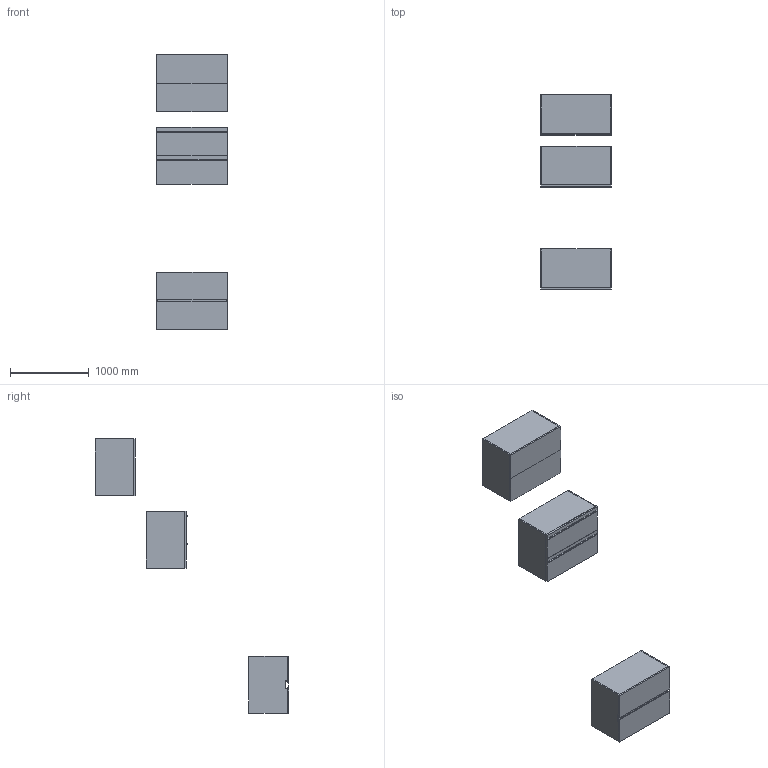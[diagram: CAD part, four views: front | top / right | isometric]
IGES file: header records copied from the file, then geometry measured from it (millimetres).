
Start section: Data from Parasolid IGES Translator 19.0.9, Copyright(c) 2006 Siemens PL M Software. All Rights Reserved.
Global section: file name: noorth-SI-H 72 D 51 W 90_8663.igs; native system: By Siemens PLM Incorporated; preprocessor: XPlus GENERIC/IGES 19.0.9; author: Noname; organization: Noname; date: 20200601.122201; units: metre
Bounding box: 900 x 2458 x 3480.01 mm (x, y, z)
Volume: 115919598.5 mm3; surface area: 17785939.5 mm2
Topology: 24 solids, 24 shells, 248 faces, 544 edges, 324 vertices
Faces by surface type: plane 164, extrusion 36, bspline 32, cylinder 16
